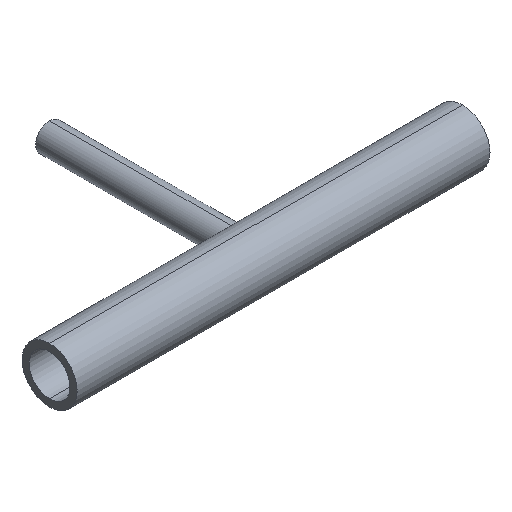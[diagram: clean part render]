
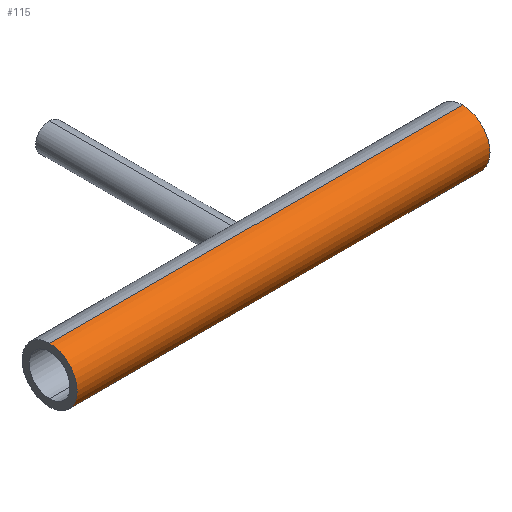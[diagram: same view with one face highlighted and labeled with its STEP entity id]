
A CAD part, isometric view. The second image highlights one B-rep face of the part: STEP entity #115.
In plain terms, the highlighted cylindrical face has radius 6.35 mm (diameter 12.7 mm), a partial arc.
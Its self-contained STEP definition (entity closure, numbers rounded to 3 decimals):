
#21 = ORIENTED_EDGE ( 'NONE', *, *, #191, .T. ) ;
#36 = EDGE_LOOP ( 'NONE', ( #428, #21, #104, #291 ) ) ;
#40 = DIRECTION ( 'NONE',  ( 1., 0., 0. ) ) ;
#51 = EDGE_CURVE ( 'NONE', #313, #317, #170, .T. ) ;
#67 = CARTESIAN_POINT ( 'NONE',  ( -47.6, 0., 6.35 ) ) ;
#68 = CARTESIAN_POINT ( 'NONE',  ( -47.6, 0., -6.35 ) ) ;
#73 = VERTEX_POINT ( 'NONE', #171 ) ;
#85 = EDGE_CURVE ( 'NONE', #158, #73, #457, .T. ) ;
#99 = CIRCLE ( 'NONE', #329, 6.35 ) ;
#100 = AXIS2_PLACEMENT_3D ( 'NONE', #333, #40, #293 ) ;
#104 = ORIENTED_EDGE ( 'NONE', *, *, #85, .T. ) ;
#108 = DIRECTION ( 'NONE',  ( -1., 0., 0. ) ) ;
#115 = ADVANCED_FACE ( 'NONE', ( #466 ), #339, .T. ) ;
#127 = CARTESIAN_POINT ( 'NONE',  ( 47.6, 0., 6.35 ) ) ;
#137 = EDGE_CURVE ( 'NONE', #73, #317, #99, .T. ) ;
#158 = VERTEX_POINT ( 'NONE', #68 ) ;
#169 = VECTOR ( 'NONE', #200, 1000. ) ;
#170 = LINE ( 'NONE', #67, #441 ) ;
#171 = CARTESIAN_POINT ( 'NONE',  ( 47.6, 0., -6.35 ) ) ;
#191 = EDGE_CURVE ( 'NONE', #313, #158, #396, .T. ) ;
#200 = DIRECTION ( 'NONE',  ( 1., 0., 0. ) ) ;
#262 = CARTESIAN_POINT ( 'NONE',  ( -47.6, 0., 0. ) ) ;
#291 = ORIENTED_EDGE ( 'NONE', *, *, #137, .T. ) ;
#293 = DIRECTION ( 'NONE',  ( 0., 0., -1. ) ) ;
#302 = DIRECTION ( 'NONE',  ( 0., 0., -1. ) ) ;
#306 = CARTESIAN_POINT ( 'NONE',  ( -47.6, 0., 6.35 ) ) ;
#313 = VERTEX_POINT ( 'NONE', #306 ) ;
#317 = VERTEX_POINT ( 'NONE', #127 ) ;
#318 = CARTESIAN_POINT ( 'NONE',  ( 47.6, 0., 0. ) ) ;
#329 = AXIS2_PLACEMENT_3D ( 'NONE', #318, #108, #433 ) ;
#332 = CARTESIAN_POINT ( 'NONE',  ( -47.6, 0., -6.35 ) ) ;
#333 = CARTESIAN_POINT ( 'NONE',  ( -47.6, 0., 0. ) ) ;
#339 = CYLINDRICAL_SURFACE ( 'NONE', #407, 6.35 ) ;
#379 = DIRECTION ( 'NONE',  ( 1., 0., 0. ) ) ;
#396 = CIRCLE ( 'NONE', #100, 6.35 ) ;
#407 = AXIS2_PLACEMENT_3D ( 'NONE', #262, #379, #302 ) ;
#408 = DIRECTION ( 'NONE',  ( 1., 0., 0. ) ) ;
#428 = ORIENTED_EDGE ( 'NONE', *, *, #51, .F. ) ;
#433 = DIRECTION ( 'NONE',  ( 0., 0., -1. ) ) ;
#441 = VECTOR ( 'NONE', #408, 1000. ) ;
#457 = LINE ( 'NONE', #332, #169 ) ;
#466 = FACE_OUTER_BOUND ( 'NONE', #36, .T. ) ;
